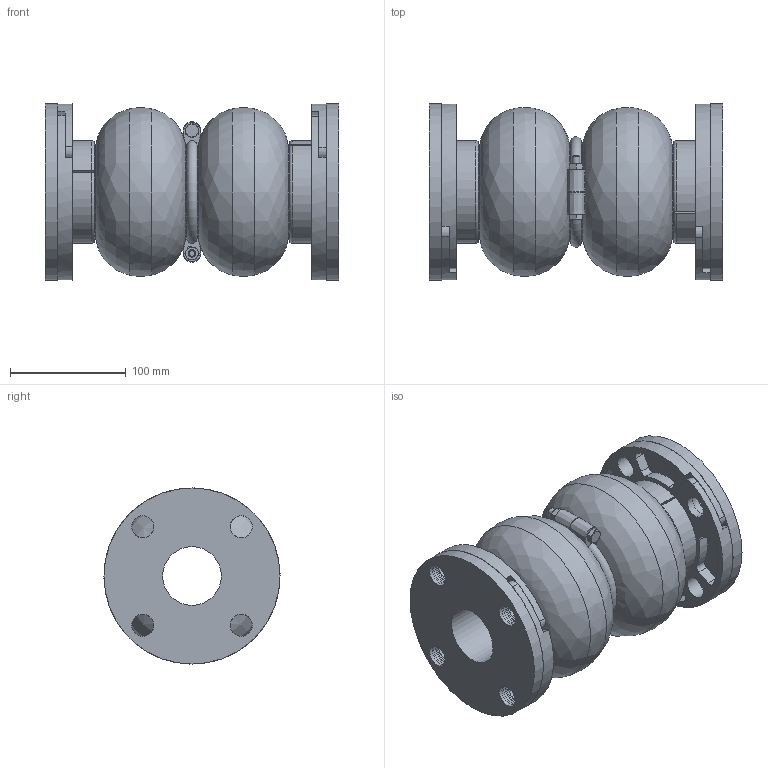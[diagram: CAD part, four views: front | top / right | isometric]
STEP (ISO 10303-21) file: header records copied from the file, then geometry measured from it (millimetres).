
FILE_DESCRIPTION((''),'2;1');
FILE_NAME('C:\2011_Work\Designs\Mercer\Stock Joints\450 Style\452\STEP\Style452 2x10.stp','2013-07-26T16:54:05',('mquog'),(''),'Autodesk Inventor 2011','Autodesk Inventor 2011','');
FILE_SCHEMA(('AUTOMOTIVE_DESIGN { 1 0 10303 214 1 1 1 1 }'));
Length unit declared in the file: inch
Products named in the file (6): Style452 2x10; 2DI450BUR150-1; 2_MBR; Hex Bolt - Inch 1/4-20 UNC - 2; Hex Nut - Inch 1/4 - 20; 452 2x10
Assembly tree (11 placements, depth 2):
  Style452 2x10
    2DI450BUR150-1  x4
    2_MBR  x2
    Hex Bolt - Inch 1/4-20 UNC - 2  x2
    Hex Nut - Inch 1/4 - 20  x2
    452 2x10
Bounding box: 254 x 152.4 x 152.4 mm (x, y, z)
Volume: 2177743 mm3; surface area: 1780468.8 mm2
Topology: 43 solids, 43 shells, 540 faces, 1206 edges, 756 vertices
Faces by surface type: cylinder 198, plane 178, bspline 75, torus 45, cone 44
Full cylindrical faces by diameter (mm): 4.978 x2, 6.35 x2, 6.604 x2, 9.525 x4, 11.125 x2, 19.05 x60, 50.8 x3, 57.15 x6, 63.5 x12, 67.564 x6, 71.628 x8, 74.803 x3, 82.55 x6, 146.05 x12, 152.4 x2
Entity records: 12942 total; most frequent: CARTESIAN_POINT 5473, DIRECTION 1495, ORIENTED_EDGE 1074, EDGE_LOOP 746, AXIS2_PLACEMENT_3D 710, EDGE_CURVE 537, VERTEX_POINT 459, CIRCLE 400
